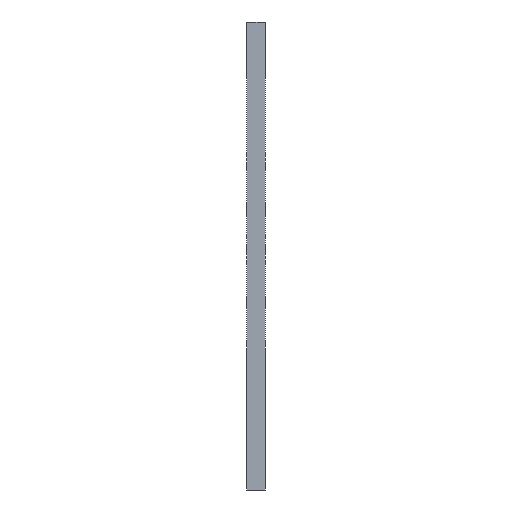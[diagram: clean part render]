
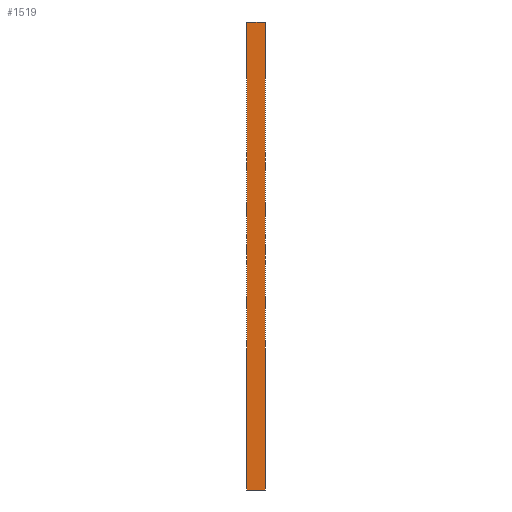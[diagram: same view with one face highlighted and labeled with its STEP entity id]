
A CAD part, left-side view. The second image highlights one B-rep face of the part: STEP entity #1519.
In plain terms, the highlighted planar face has unit normal (-1, 0, 0).
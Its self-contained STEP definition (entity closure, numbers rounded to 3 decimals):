
#135=PLANE('',#1730);
#202=FACE_OUTER_BOUND('',#270,.T.);
#270=EDGE_LOOP('',(#1242,#1243,#1244,#1245));
#458=LINE('',#2562,#534);
#459=LINE('',#2564,#535);
#460=LINE('',#2566,#536);
#461=LINE('',#2567,#537);
#534=VECTOR('',#2164,10.);
#535=VECTOR('',#2165,10.);
#536=VECTOR('',#2166,10.);
#537=VECTOR('',#2167,10.);
#792=VERTEX_POINT('',#2560);
#793=VERTEX_POINT('',#2561);
#794=VERTEX_POINT('',#2563);
#795=VERTEX_POINT('',#2565);
#984=EDGE_CURVE('',#792,#793,#458,.T.);
#985=EDGE_CURVE('',#793,#794,#459,.T.);
#986=EDGE_CURVE('',#795,#794,#460,.T.);
#987=EDGE_CURVE('',#792,#795,#461,.T.);
#1242=ORIENTED_EDGE('',*,*,#984,.T.);
#1243=ORIENTED_EDGE('',*,*,#985,.T.);
#1244=ORIENTED_EDGE('',*,*,#986,.F.);
#1245=ORIENTED_EDGE('',*,*,#987,.F.);
#1519=ADVANCED_FACE('',(#202),#135,.T.);
#1730=AXIS2_PLACEMENT_3D('',#2559,#2162,#2163);
#2162=DIRECTION('center_axis',(-1.,0.,0.));
#2163=DIRECTION('ref_axis',(0.,0.,1.));
#2164=DIRECTION('',(0.,0.,1.));
#2165=DIRECTION('',(0.,1.,0.));
#2166=DIRECTION('',(0.,0.,1.));
#2167=DIRECTION('',(0.,1.,0.));
#2559=CARTESIAN_POINT('Origin',(-250.,0.,-125.));
#2560=CARTESIAN_POINT('',(-250.,0.,-125.));
#2561=CARTESIAN_POINT('',(-250.,0.,0.));
#2562=CARTESIAN_POINT('',(-250.,0.,-125.));
#2563=CARTESIAN_POINT('',(-250.,5.,0.));
#2564=CARTESIAN_POINT('',(-250.,0.,0.));
#2565=CARTESIAN_POINT('',(-250.,5.,-125.));
#2566=CARTESIAN_POINT('',(-250.,5.,-125.));
#2567=CARTESIAN_POINT('',(-250.,0.,-125.));
